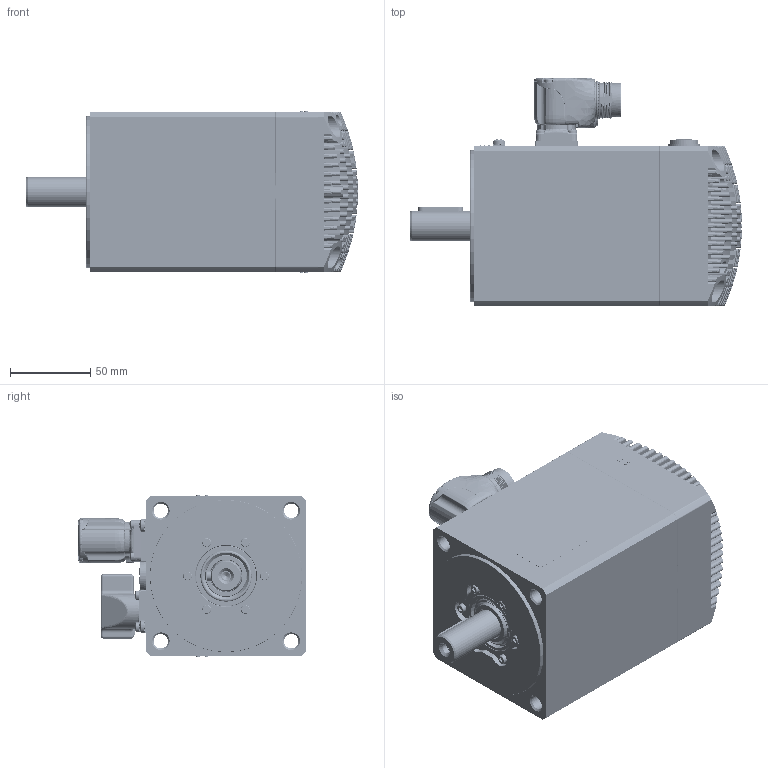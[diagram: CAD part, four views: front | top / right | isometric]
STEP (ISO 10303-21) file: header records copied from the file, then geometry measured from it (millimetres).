
FILE_DESCRIPTION((''),'2;1');
FILE_NAME('32190015741_ASM','2022-04-13T09:19:03',('gabrielec'),(''),'CREO PARAMETRIC BY PTC INC, 2021304','CREO PARAMETRIC BY PTC INC, 2021304','');
FILE_SCHEMA(('AP242_MANAGED_MODEL_BASED_3D_ENGINEERING_MIM_LF { 1 0 10303 442 1 1 4 }'));
Products named in the file (37): 50992N-0; 32149915563_ASM; 22320015079; 22320015079_ASM; 32050015014_ASM; 32060015580_ASM; 51941N-1; 32090015034_ASM; NRG_001; M3X16_GBT70-1; GB_T862_1; M4X8_GBT818_CU; 51093N-0; 32159915247_ASM; 22160015160; MENTOR-1292_9013; CEMBRE_FD9; CEMBRE_2053M16N; 32150015177_ASM; PHOENIX-1605586; 33000015098_AF14_ASM; UNI7687_M3X8_INOX; CAN_OPEN; 33200203857_AF7_ASM; 31500203857_AF7_ASM; 50941N-0; UNI7687_M3X6_INOX; 22210015021; 32150015175_ASM; UNI5931_M4X16; LIP_SEAL_TW05; 22250015024; 22250015126; 43500000229; 43500000050; L_6X6-28_UNI6604; 32190015741_ASM
Assembly tree (64 placements, depth 7):
  32190015741_ASM
    32159915247_ASM
      32149915563_ASM
        50992N-0
      32090015034_ASM
        32060015580_ASM
          32050015014_ASM
            22320015079_ASM
              22320015079
        51941N-1
      NRG_001  x6
      M3X16_GBT70-1  x6
      GB_T862_1  x2
      M4X8_GBT818_CU  x2
      51093N-0
    32150015177_ASM
      22160015160
      MENTOR-1292_9013  x8
      CEMBRE_FD9
      CEMBRE_2053M16N
    33000015098_AF14_ASM
      PHOENIX-1605586
    UNI7687_M3X8_INOX  x4
    31500203857_AF7_ASM
      33200203857_AF7_ASM
        CAN_OPEN
    50941N-0  x2
    UNI7687_M3X6_INOX  x3
    32150015175_ASM
      22210015021
    UNI5931_M4X16  x4
    LIP_SEAL_TW05
    22250015024
    22250015126
    43500000229
    43500000050
    L_6X6-28_UNI6604
Bounding box: 207 x 142.41 x 100.8 mm (x, y, z)
Volume: 644639.1 mm3; surface area: 323575 mm2
Topology: 73 solids, 100 shells, 4618 faces, 11616 edges, 7367 vertices
Faces by surface type: plane 1587, cylinder 1135, cone 665, bspline 612, torus 354, sphere 243, revolution 11, extrusion 11
Entity records: 201095 total; most frequent: CARTESIAN_POINT 68220, ORIENTED_EDGE 20540, DIRECTION 18706, PRESENTATION_STYLE_ASSIGNMENT 10765, STYLED_ITEM 10351, EDGE_CURVE 10323, CURVE_STYLE 10279, AXIS2_PLACEMENT_3D 7272
